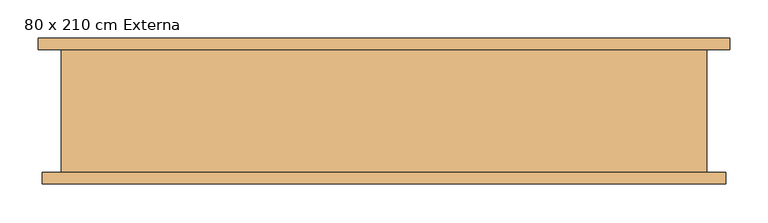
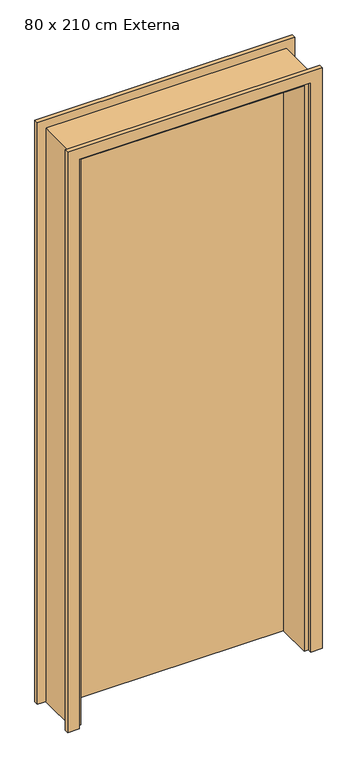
"""IFC4 building model written with IfcOpenShell, lengths in millimetres: door geometry, POR_PM_GIRO_1FL : 80 x 210 cm Externa."""

from ifc_helpers import new_model, si_unit, frame, origin, origin_with_axes, place, context, project, spatial, polyline, outline, extrude, faceted_brep, source, transform, mapped, element, save


def door_80_x_210_cm_externa_7cd48cfd(model_context):
    return source(origin(), model_context, "Body", "SolidModel", [
        extrude(outline(polyline([(0.0, -405.0), (2105.0, -405.0), (2105.0, 405.0), (0.0, 405.0), (0.0, 445.0), (2145.0, 445.0), (2145.0, -445.0), (0.0, -445.0), (0.0, -405.0)])), frame((0.0, -95.0, 0.0), z_axis=(0.0, 1.0, 0.0), x_axis=(0.0, 0.0, 1.0)), (0.0, 0.0, 1.0), 15.0),
        extrude(outline(polyline([(0.0, -410.0), (2110.0, -410.0), (2110.0, 410.0), (0.0, 410.0), (0.0, 450.0), (2150.0, 450.0), (2150.0, -450.0), (0.0, -450.0), (0.0, -410.0)])), frame((0.0, 80.0, 0.0), z_axis=(0.0, 1.0, 0.0), x_axis=(0.0, 0.0, 1.0)), (0.0, 0.0, 1.0), 15.0),
        faceted_brep([(390.0, 45.0, 0.0), (400.0, 45.0, 0.0), (400.0, 80.0, 0.0), (420.0, 80.0, 0.0), (420.0, -80.0, 0.0), (390.0, -80.0, 0.0), (390.0, -80.0, 2090.0), (390.0, 45.0, 2090.0), (420.0, -80.0, 2120.0), (-420.0, -80.0, 2120.0), (-420.0, -80.0, 0.0), (-390.0, -80.0, 0.0), (-390.0, -80.0, 2090.0), (420.0, 80.0, 2120.0), (400.0, 80.0, 2100.0), (-400.0, 80.0, 2100.0), (-400.0, 80.0, 0.0), (-420.0, 80.0, 0.0), (-420.0, 80.0, 2120.0), (400.0, 45.0, 2100.0), (-390.0, 45.0, 2090.0), (-390.0, 45.0, 0.0), (-400.0, 45.0, 0.0), (-400.0, 45.0, 2100.0)], [[[0, 1, 2, 3, 4, 5]], [[5, 6, 7, 0]], [[4, 8, 9, 10, 11, 12, 6, 5]], [[3, 13, 8, 4]], [[2, 14, 15, 16, 17, 18, 13, 3]], [[1, 19, 14, 2]], [[0, 7, 20, 21, 22, 23, 19, 1]], [[12, 11, 21, 20]], [[21, 11, 10, 17, 16, 22]], [[18, 17, 10, 9]], [[23, 22, 16, 15]], [[6, 12, 20, 7]], [[13, 18, 9, 8]], [[19, 23, 15, 14]]]),
        extrude(outline(polyline([(-400.0, 45.0), (-400.0, 80.0), (400.0, 80.0), (400.0, 45.0), (-400.0, 45.0)])), origin_with_axes(), (0.0, 0.0, 1.0), 2100.0),
    ])


if __name__ == "__main__":
    model = new_model("IFC4")
    model_context = context("Model", 3, world=origin())
    ifc_project = project(units=[si_unit("LENGTHUNIT", "METRE", prefix="MILLI")], contexts=[model_context])
    site = spatial("IfcSite", under=ifc_project)
    building = spatial("IfcBuilding", under=site)
    placement = place(None, origin())
    door_80_x_210_cm_externa_shape = door_80_x_210_cm_externa_7cd48cfd(model_context)
    element("IfcDoor", 1, ObjectType="POR_PM_GIRO_1FL : 80 x 210 cm Externa", at=placement, inside=building, context=model_context, shape_type="MappedRepresentation", body=[
        mapped(door_80_x_210_cm_externa_shape, transform((0.0, 0.0, 0.0), x_axis=(1.0, 0.0, 0.0), y_axis=(0.0, 1.0, 0.0), z_axis=(0.0, 0.0, 1.0))),
    ])
    save(model, "model.ifc")
